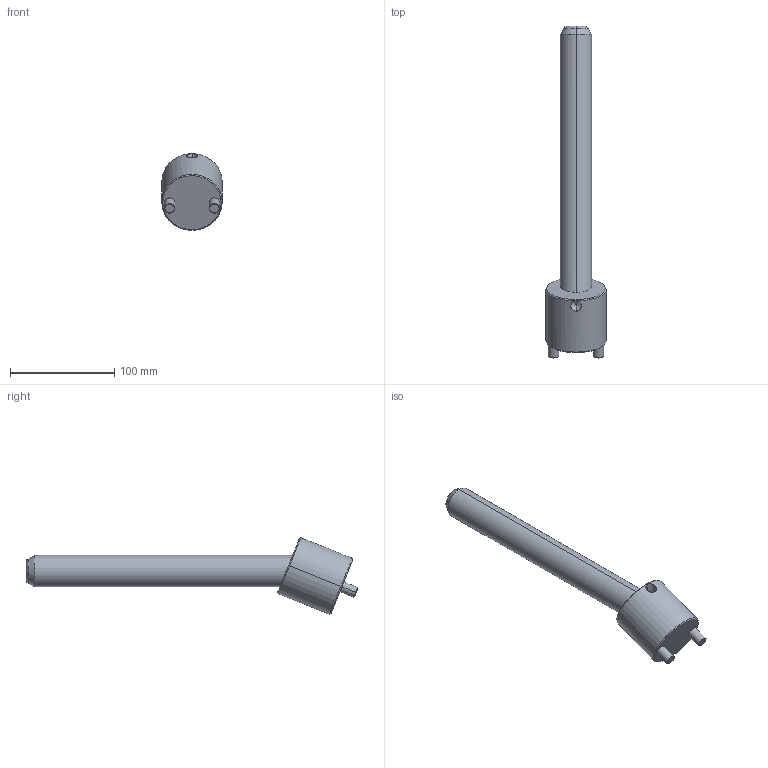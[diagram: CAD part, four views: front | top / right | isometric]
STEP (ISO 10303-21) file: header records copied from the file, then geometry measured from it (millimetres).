
FILE_DESCRIPTION(('CATIA V5 STEP Exchange'),'2;1');
FILE_NAME('C:\Users\Raffaele\Desktop\3D BOLEX\3D FILES CF BOLEX\19-INCLINED ASSEMBLY REF_CI\CI2230250.stp','2019-06-24T07:01:45+00:00',('none'),('none'),'CATIA Version 5 Release 20 GA (IN-10)','CATIA V5 STEP AP203','none');
FILE_SCHEMA(('CONFIG_CONTROL_DESIGN'));
Length unit declared in the file: millimetre
Products named in the file (1): CI2230250
Assembly tree (2 placements, depth 2):
  CI2230250
    #58
    #593
Bounding box: 58 x 318.84 x 73.63 mm (x, y, z)
Volume: 320489.6 mm3; surface area: 49573.4 mm2
Topology: 2 solids, 2 shells, 39 faces, 85 edges, 49 vertices
Faces by surface type: cone 14, cylinder 14, plane 7, torus 4
Entity records: 1585 total; most frequent: CARTESIAN_POINT 708, ORIENTED_EDGE 166, DIRECTION 148, EDGE_CURVE 83, AXIS2_PLACEMENT_3D 75, VERTEX_POINT 49, EDGE_LOOP 42, ADVANCED_FACE 39
